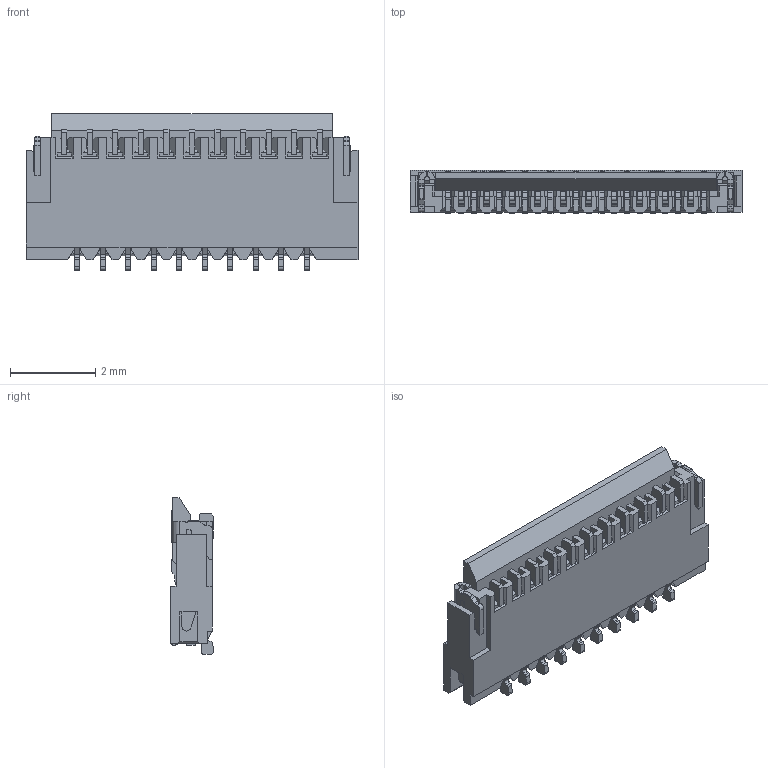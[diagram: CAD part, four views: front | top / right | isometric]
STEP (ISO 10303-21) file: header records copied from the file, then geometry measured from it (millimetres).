
FILE_DESCRIPTION (( 'STEP AP203' ), '1' );
FILE_NAME ('GT-F0303SR10-21B0101.STEP', '2023-12-26T01:57:14', ( 'Microsoft' ), ( 'Microsoft' ), 'SwSTEP 2.0', 'SolidWorks 2023', '' );
FILE_SCHEMA (( 'CONFIG_CONTROL_DESIGN' ));
Products named in the file (1): GT-F0303SR10-21B0101
Bounding box: 7.8 x 1.01 x 3.69 mm (x, y, z)
Volume: 16 mm3; surface area: 216.1 mm2
Topology: 1 solids, 3 shells, 2427 faces, 7508 edges, 4916 vertices
Faces by surface type: plane 1626, cylinder 727, bspline 74
Entity records: 87236 total; most frequent: CARTESIAN_POINT 19399, ORIENTED_EDGE 15016, DIRECTION 13383, EDGE_CURVE 7508, LINE 5847, VECTOR 5847, VERTEX_POINT 4916, AXIS2_PLACEMENT_3D 3768
